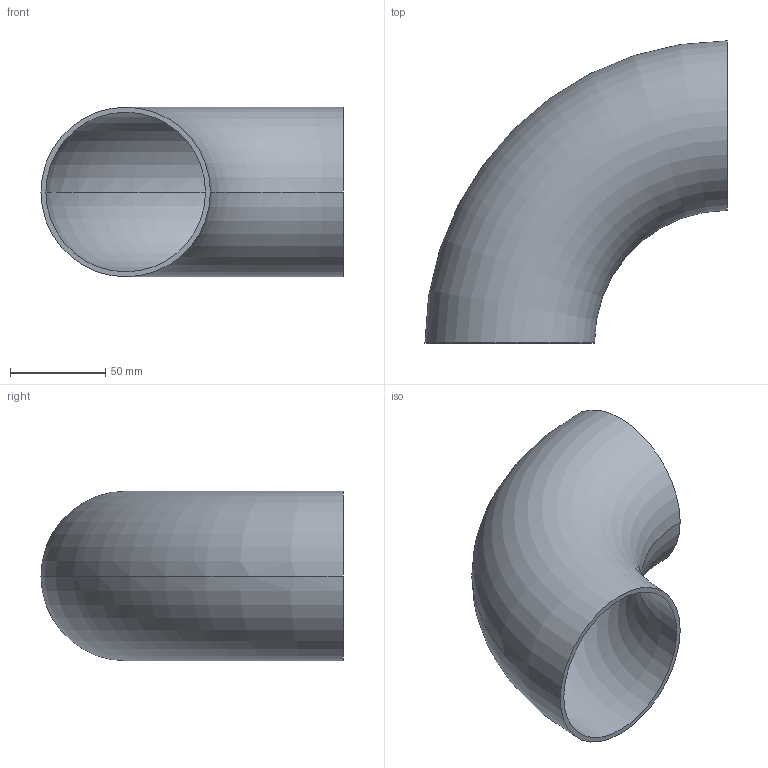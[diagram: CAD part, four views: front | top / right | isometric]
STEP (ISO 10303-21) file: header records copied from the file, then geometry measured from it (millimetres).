
FILE_DESCRIPTION (( 'STEP AP203' ), '1' );
FILE_NAME ('OT200-80-88_9x2_6_OSTP.step', '2020-12-16T02:38:30', ( '' ), ( '' ), 'SwSTEP 2.0', 'SolidWorks 2014', '' );
FILE_SCHEMA (( 'CONFIG_CONTROL_DESIGN' ));
Length unit declared in the file: millimetre
Products named in the file (1): OT200-80-88_9x2_6_OSTP
Bounding box: 158.45 x 158.45 x 88.9 mm (x, y, z)
Volume: 126228.9 mm3; surface area: 98509 mm2
Topology: 1 solids, 1 shells, 6 faces, 12 edges, 8 vertices
Faces by surface type: torus 4, plane 2
Entity records: 249 total; most frequent: DIRECTION 38, CARTESIAN_POINT 27, ORIENTED_EDGE 24, AXIS2_PLACEMENT_3D 19, EDGE_CURVE 12, CIRCLE 12, PERSON_AND_ORGANIZATION 8, VERTEX_POINT 8
